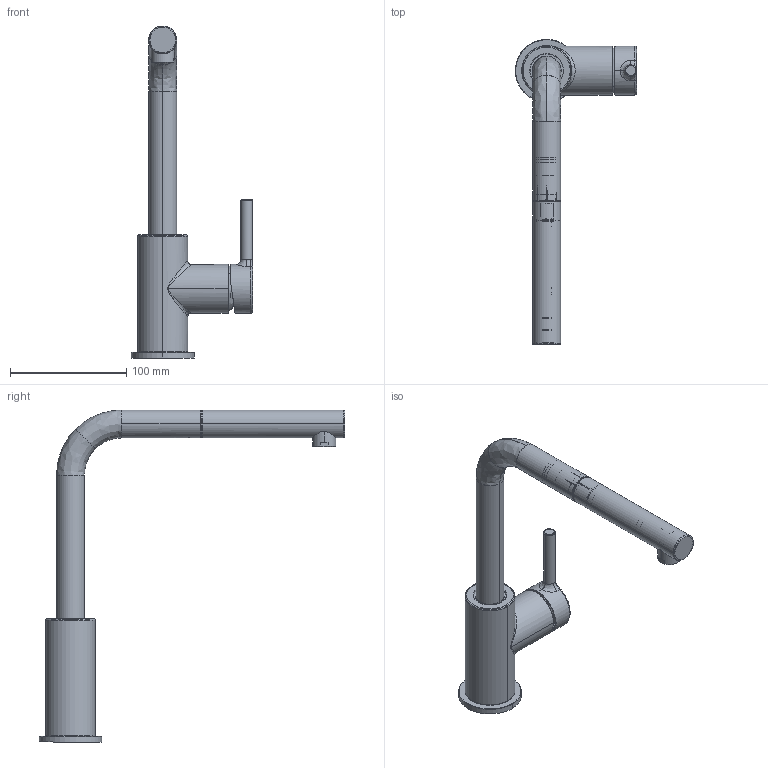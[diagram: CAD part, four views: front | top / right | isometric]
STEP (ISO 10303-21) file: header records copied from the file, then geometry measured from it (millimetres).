
FILE_DESCRIPTION(/* description */ (''),/* implementation_level */ '2;1');
FILE_NAME(/* name */ '3D001_Taps_Lina_L-Pull-Out-Nozzle',/* time_stamp */ '2024-03-12T15:44:30+01:00',/* author */ (''),/* organization */ (''),/* preprocessor_version */ 'ST-DEVELOPER v19.2',/* originating_system */ 'Rhino 8.4',/* authorisation */ '');
FILE_SCHEMA (('CONFIG_CONTROL_DESIGN'));
Length unit declared in the file: millimetre
Products named in the file (10): Document; LOGO_CALDO_FREDDO; S_PRG_FR03623_0092_02; S_PRG_FR03623_0088_07; S_PRG_FR03623_0088_09; S_PRG_FR03623_0088_01; S_PRG_FR03623_0088_04; S_PRG_FR03623_0088_06; S_PRG_FR03623_0087_01; S_PRG_FR03623_0094_01
Bounding box: 104.38 x 263 x 285.5 mm (x, y, z)
Volume: 129646.8 mm3; surface area: 133274.9 mm2
Topology: 20 solids, 20 shells, 956 faces, 2389 edges, 1486 vertices
Faces by surface type: plane 371, bspline 349, cylinder 236
Entity records: 50671 total; most frequent: CARTESIAN_POINT 30128, ORIENTED_EDGE 4744, DIRECTION 2527, EDGE_CURVE 2372, AXIS2_PLACEMENT_3D 1567, VERTEX_POINT 1486, B_SPLINE_CURVE_WITH_KNOTS 1438, EDGE_LOOP 1028
